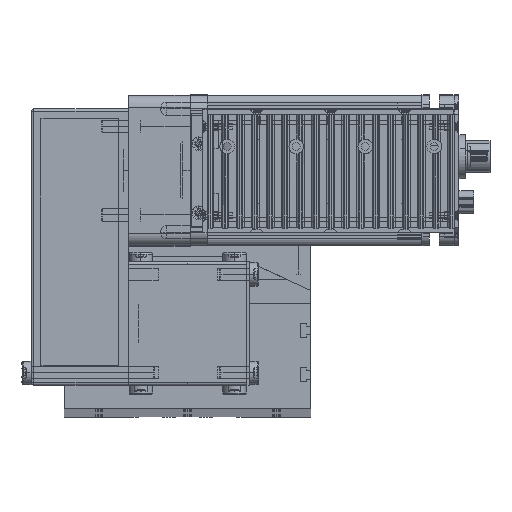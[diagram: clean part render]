
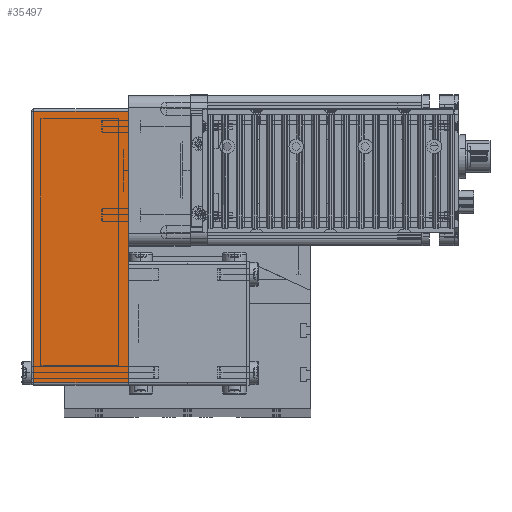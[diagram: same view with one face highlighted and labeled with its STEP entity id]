
A CAD part, top view. The second image highlights one B-rep face of the part: STEP entity #35497.
In plain terms, the highlighted planar face has unit normal (0, 0, 1) as drawn and (0, -1, 0) by its records, which use the part's own axes.
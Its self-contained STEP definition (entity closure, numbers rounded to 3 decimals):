
#9953 = CARTESIAN_POINT ( 'NONE',  ( -49., -25., 0. ) ) ;
#10154 = CARTESIAN_POINT ( 'NONE',  ( -49., -25., 38.5 ) ) ;
#10226 = DIRECTION ( 'NONE',  ( 0., 0., 1. ) ) ;
#10227 = VECTOR ( 'NONE', #10226, 1000. ) ;
#10228 = CARTESIAN_POINT ( 'NONE',  ( -49., -25., 39.5 ) ) ;
#10229 = LINE ( 'NONE', #10228, #10227 ) ;
#10231 = CARTESIAN_POINT ( 'NONE',  ( 61., -25., 0. ) ) ;
#10257 = CARTESIAN_POINT ( 'NONE',  ( 61., -25., 38.5 ) ) ;
#10430 = DIRECTION ( 'NONE',  ( 0., 0., -1. ) ) ;
#10431 = VECTOR ( 'NONE', #10430, 1000. ) ;
#10446 = CARTESIAN_POINT ( 'NONE',  ( 61., -25., 39.5 ) ) ;
#10447 = LINE ( 'NONE', #10446, #10431 ) ;
#11250 = DIRECTION ( 'NONE',  ( 1., 0., 0. ) ) ;
#11251 = VECTOR ( 'NONE', #11250, 1000. ) ;
#11254 = CARTESIAN_POINT ( 'NONE',  ( -50., -25., 0. ) ) ;
#11256 = LINE ( 'NONE', #11254, #11251 ) ;
#11281 = DIRECTION ( 'NONE',  ( 1., 0., 0. ) ) ;
#11282 = VECTOR ( 'NONE', #11281, 1000. ) ;
#11283 = CARTESIAN_POINT ( 'NONE',  ( -50., -25., 38.5 ) ) ;
#11284 = LINE ( 'NONE', #11283, #11282 ) ;
#11288 = FACE_OUTER_BOUND ( 'NONE', #35439, .T. ) ;
#11374 = DIRECTION ( 'NONE',  ( 0., 0., 1. ) ) ;
#11376 = DIRECTION ( 'NONE',  ( 0., 1., 0. ) ) ;
#11378 = CARTESIAN_POINT ( 'NONE',  ( -50., -25., 39.5 ) ) ;
#11380 = AXIS2_PLACEMENT_3D ( 'NONE', #11378, #11376, #11374 ) ;
#11393 = PLANE ( 'NONE',  #11380 ) ;
#35186 = VERTEX_POINT ( 'NONE', #9953 ) ;
#35201 = VERTEX_POINT ( 'NONE', #10154 ) ;
#35231 = VERTEX_POINT ( 'NONE', #10257 ) ;
#35242 = EDGE_CURVE ( 'NONE', #35186, #35201, #10229, .T. ) ;
#35253 = VERTEX_POINT ( 'NONE', #10231 ) ;
#35290 = EDGE_CURVE ( 'NONE', #35231, #35253, #10447, .T. ) ;
#35439 = EDGE_LOOP ( 'NONE', ( #35448, #35494, #35487, #35484 ) ) ;
#35448 = ORIENTED_EDGE ( 'NONE', *, *, #35242, .F. ) ;
#35483 = EDGE_CURVE ( 'NONE', #35201, #35231, #11284, .T. ) ;
#35484 = ORIENTED_EDGE ( 'NONE', *, *, #35483, .F. ) ;
#35487 = ORIENTED_EDGE ( 'NONE', *, *, #35290, .F. ) ;
#35494 = ORIENTED_EDGE ( 'NONE', *, *, #35495, .T. ) ;
#35495 = EDGE_CURVE ( 'NONE', #35186, #35253, #11256, .T. ) ;
#35497 = ADVANCED_FACE ( 'NONE', ( #11288 ), #11393, .F. ) ;
